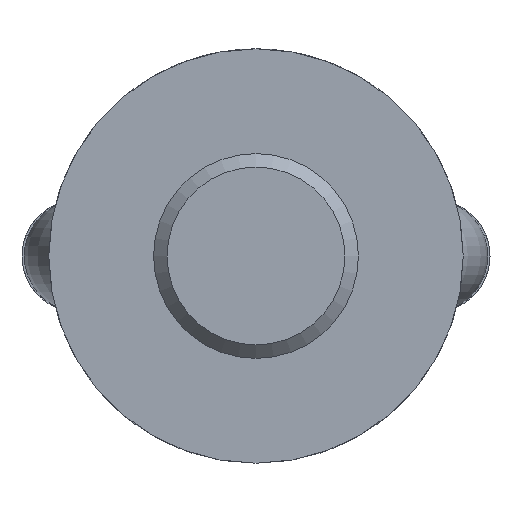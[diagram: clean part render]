
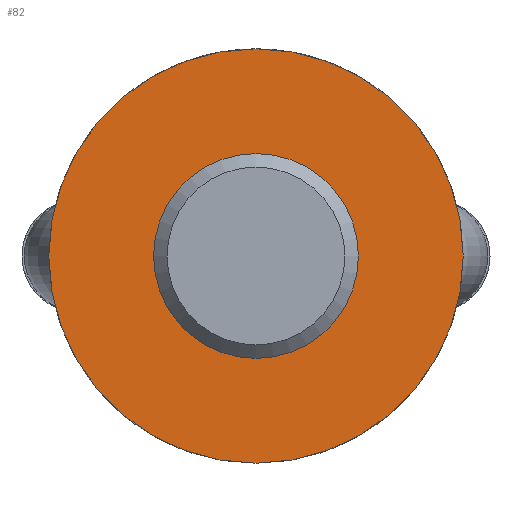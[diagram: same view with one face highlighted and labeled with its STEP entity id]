
A CAD part, front view. The second image highlights one B-rep face of the part: STEP entity #82.
In plain terms, the highlighted planar face has unit normal (0, -1, 0).
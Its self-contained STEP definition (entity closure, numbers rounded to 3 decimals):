
#82 = ADVANCED_FACE( '', ( #121, #122 ), #123, .F. );
#121 = FACE_BOUND( '', #189, .T. );
#122 = FACE_OUTER_BOUND( '', #190, .T. );
#123 = PLANE( '', #191 );
#189 = EDGE_LOOP( '', ( #306 ) );
#190 = EDGE_LOOP( '', ( #307 ) );
#191 = AXIS2_PLACEMENT_3D( '', #308, #309, #310 );
#306 = ORIENTED_EDGE( '', *, *, #458, .T. );
#307 = ORIENTED_EDGE( '', *, *, #459, .T. );
#308 = CARTESIAN_POINT( '', ( 42.5, 0., 0. ) );
#309 = DIRECTION( '', ( 0., 1., 0. ) );
#310 = DIRECTION( '', ( 0., 0., 1. ) );
#458 = EDGE_CURVE( '', #535, #535, #536, .T. );
#459 = EDGE_CURVE( '', #537, #537, #538, .T. );
#535 = VERTEX_POINT( '', #996 );
#536 = CIRCLE( '', #997, 21. );
#537 = VERTEX_POINT( '', #998 );
#538 = CIRCLE( '', #999, 42.5 );
#996 = CARTESIAN_POINT( '', ( 0., 0., 21. ) );
#997 = AXIS2_PLACEMENT_3D( '', #1056, #1057, #1058 );
#998 = CARTESIAN_POINT( '', ( 0., 0., -42.5 ) );
#999 = AXIS2_PLACEMENT_3D( '', #1059, #1060, #1061 );
#1056 = CARTESIAN_POINT( '', ( 0., 0., 0. ) );
#1057 = DIRECTION( '', ( 0., 1., 0. ) );
#1058 = DIRECTION( '', ( 0., 0., 1. ) );
#1059 = CARTESIAN_POINT( '', ( 0., 0., 0. ) );
#1060 = DIRECTION( '', ( 0., -1., 0. ) );
#1061 = DIRECTION( '', ( 0., 0., -1. ) );
